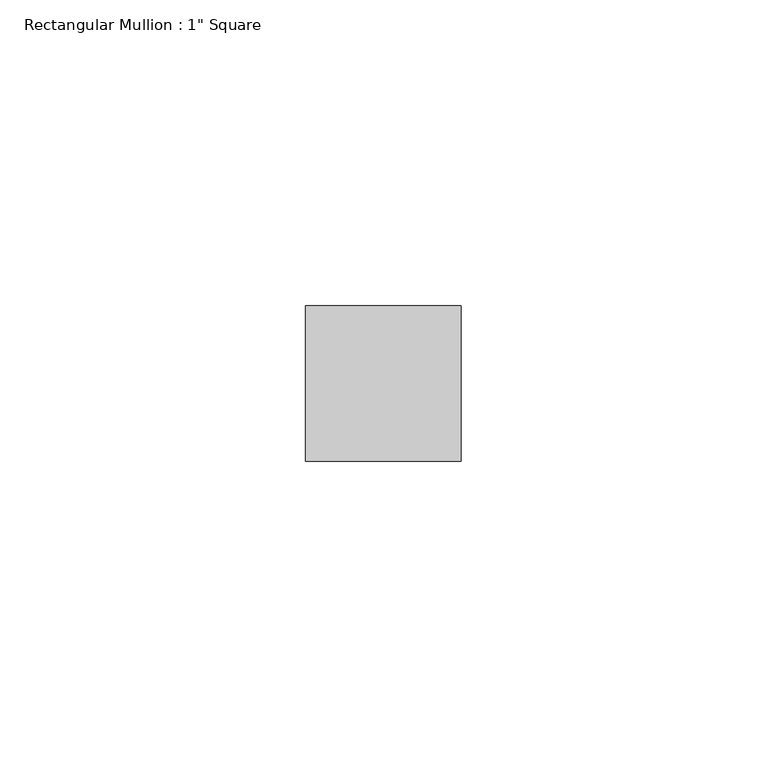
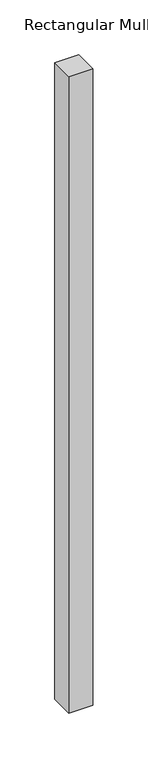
"""IFC4 building model written with IfcOpenShell, lengths in millimetres: member geometry."""

from ifc_helpers import new_model, si_unit, frame, origin, place, context, project, spatial, polyline, outline, extrude, source, transform, mapped, element, save


def member_fae06311(model_context):
    return source(origin(), model_context, "Body", "SweptSolid", [
        extrude(outline(polyline([(0.0, 44.45), (0.0, 19.05), (-25.4, 19.05), (-25.4, 44.45), (0.0, 44.45)])), frame((0.0, 0.0, -708.4218752), z_axis=(0.0, 0.0, 1.0), x_axis=(1.0, 0.0, 0.0)), (0.0, 0.0, 1.0), 708.4218752),
    ])


if __name__ == "__main__":
    model = new_model("IFC4")
    model_context = context("Model", 3, world=origin())
    ifc_project = project(units=[si_unit("LENGTHUNIT", "METRE", prefix="MILLI")], contexts=[model_context])
    site = spatial("IfcSite", under=ifc_project)
    building = spatial("IfcBuilding", under=site)
    placement = place(None, origin())
    member_shape = member_fae06311(model_context)
    element("IfcMember", 1, ObjectType="Rectangular Mullion : 1\" Square", at=placement, inside=building, context=model_context, shape_type="MappedRepresentation", body=[
        mapped(member_shape, transform((0.0, 0.0, 0.0), x_axis=(1.0, 0.0, 0.0), y_axis=(0.0, 1.0, 0.0), z_axis=(0.0, 0.0, 1.0))),
    ])
    save(model, "model.ifc")
